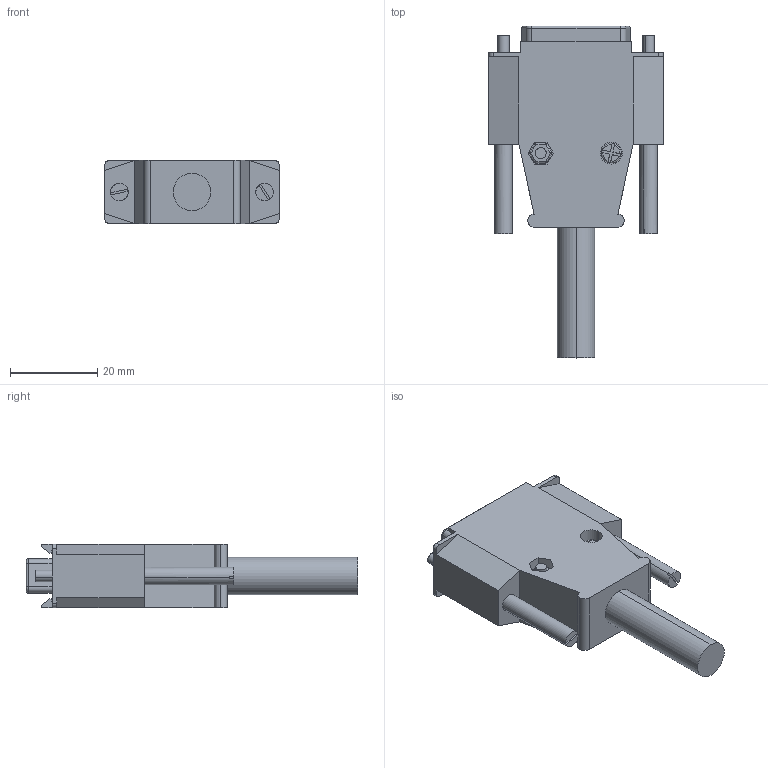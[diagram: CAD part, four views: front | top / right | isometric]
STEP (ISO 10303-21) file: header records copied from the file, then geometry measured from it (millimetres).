
FILE_DESCRIPTION (( 'STEP AP214' ), '1' );
FILE_NAME ('D-Sub15R2.STEP', '2023-02-17T00:47:45', ( 'Windows User' ), ( 'P R C' ), 'SwSTEP 2.0', 'SolidWorks 2019', '' );
FILE_SCHEMA (( 'AUTOMOTIVE_DESIGN' ));
Length unit declared in the file: millimetre
Products named in the file (5): 蹟邡; M2.5-7; D-Sub15R2; D-Sub15R2-1000; M2.5蹟譫
Assembly tree (7 placements, depth 2):
  D-Sub15R2
    D-Sub15R2-1000
    M2.5-7  x2
    M2.5蹟譫  x2
    蹟邡  x2
Bounding box: 40 x 76.2 x 14.5 mm (x, y, z)
Volume: 21056.9 mm3; surface area: 8595.8 mm2
Topology: 7 solids, 7 shells, 291 faces, 680 edges, 412 vertices
Faces by surface type: plane 129, cylinder 118, sphere 28, torus 16
Entity records: 6313 total; most frequent: DIRECTION 1133, CARTESIAN_POINT 1063, ORIENTED_EDGE 982, EDGE_CURVE 491, AXIS2_PLACEMENT_3D 428, VERTEX_POINT 310, VECTOR 277, LINE 277
